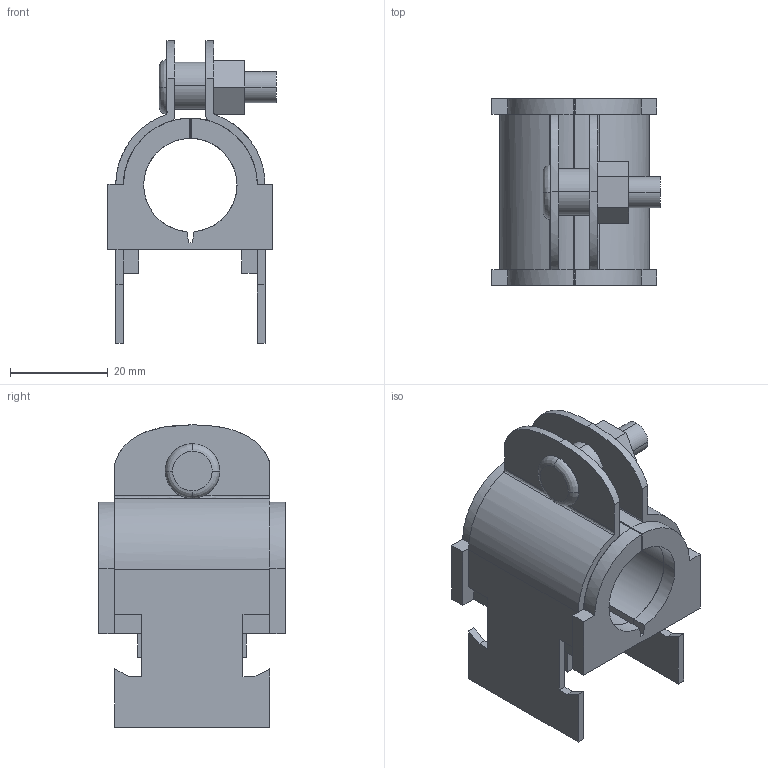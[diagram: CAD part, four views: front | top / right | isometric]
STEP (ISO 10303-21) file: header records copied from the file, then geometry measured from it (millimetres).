
FILE_DESCRIPTION(('TurboCAD Mac Pro'),'Build 980');
FILE_NAME('012T016.stp',' ',(''),(''),'ACIS Interop','IMSI','TurboCAD Mac Pro BY IMSI, INCORPORATED');
FILE_SCHEMA(('automotive_design'));
Length unit declared in the file: inch
Products named in the file (3): 1; 2; 3
Bounding box: 34.31 x 38.1 x 61.72 mm (x, y, z)
Volume: 22621.4 mm3; surface area: 16951.2 mm2
Topology: 3 solids, 3 shells, 151 faces, 407 edges, 263 vertices
Faces by surface type: plane 105, bspline 46
Entity records: 7623 total; most frequent: CARTESIAN_POINT 1844, ORIENTED_EDGE 814, DIRECTION 507, EDGE_CURVE 407, STYLED_ITEM 372, PRESENTATION_STYLE_ASSIGNMENT 372, COLOUR_RGB 372, LINE 283
